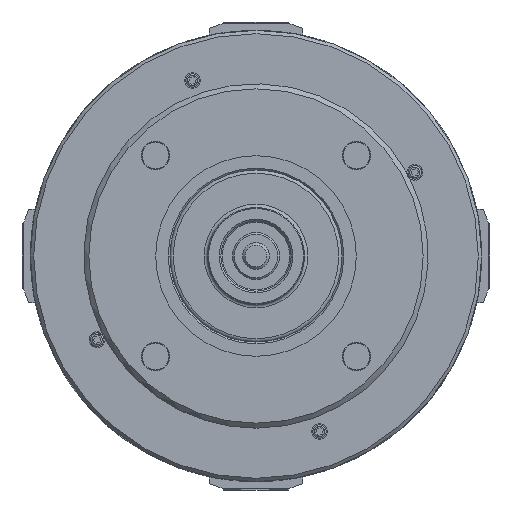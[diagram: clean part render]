
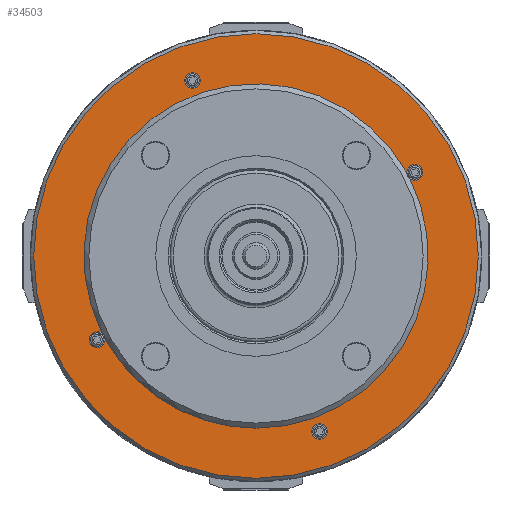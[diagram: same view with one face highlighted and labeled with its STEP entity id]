
A CAD part, left-side view. The second image highlights one B-rep face of the part: STEP entity #34503.
In plain terms, the highlighted planar face has unit normal (-1, 0, 0).
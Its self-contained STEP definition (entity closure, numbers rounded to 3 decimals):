
#558 = ORIENTED_EDGE ( 'NONE', *, *, #34661, .T. ) ;
#3327 = CIRCLE ( 'NONE', #37014, 103. ) ;
#4438 = EDGE_CURVE ( 'NONE', #41925, #5770, #20112, .T. ) ;
#4638 = AXIS2_PLACEMENT_3D ( 'NONE', #20581, #60546, #67040 ) ;
#5472 = DIRECTION ( 'NONE',  ( 0., 0., -1. ) ) ;
#5770 = VERTEX_POINT ( 'NONE', #52773 ) ;
#6200 = DIRECTION ( 'NONE',  ( 1., 0., 0. ) ) ;
#7828 = CIRCLE ( 'NONE', #49162, 4.75 ) ;
#8017 = AXIS2_PLACEMENT_3D ( 'NONE', #73903, #6200, #5472 ) ;
#9072 = EDGE_LOOP ( 'NONE', ( #43304, #32061, #558, #24000 ) ) ;
#9312 = VERTEX_POINT ( 'NONE', #54674 ) ;
#9942 = CARTESIAN_POINT ( 'NONE',  ( -107., 0., 0. ) ) ;
#11888 = EDGE_LOOP ( 'NONE', ( #72001 ) ) ;
#12027 = VERTEX_POINT ( 'NONE', #39881 ) ;
#12380 = DIRECTION ( 'NONE',  ( 0., 0., -1. ) ) ;
#15821 = AXIS2_PLACEMENT_3D ( 'NONE', #9942, #50141, #49904 ) ;
#16566 = EDGE_CURVE ( 'NONE', #22977, #22977, #72476, .T. ) ;
#17760 = CARTESIAN_POINT ( 'NONE',  ( -107., -90.266, 49.609 ) ) ;
#20112 = CIRCLE ( 'NONE', #60216, 4.75 ) ;
#20581 = CARTESIAN_POINT ( 'NONE',  ( -107., -103., 0. ) ) ;
#20679 = AXIS2_PLACEMENT_3D ( 'NONE', #24389, #41613, #12380 ) ;
#21156 = EDGE_CURVE ( 'NONE', #9312, #41925, #3327, .T. ) ;
#21480 = FACE_OUTER_BOUND ( 'NONE', #34175, .T. ) ;
#22977 = VERTEX_POINT ( 'NONE', #68373 ) ;
#23727 = DIRECTION ( 'NONE',  ( 1., 0., 0. ) ) ;
#24000 = ORIENTED_EDGE ( 'NONE', *, *, #73539, .T. ) ;
#24168 = CARTESIAN_POINT ( 'NONE',  ( -107., 38., 100.25 ) ) ;
#24389 = CARTESIAN_POINT ( 'NONE',  ( -107., 38., 105. ) ) ;
#27363 = CIRCLE ( 'NONE', #73831, 4.75 ) ;
#28892 = CARTESIAN_POINT ( 'NONE',  ( -107., -95., 50. ) ) ;
#29557 = DIRECTION ( 'NONE',  ( 1., 0., 0. ) ) ;
#32061 = ORIENTED_EDGE ( 'NONE', *, *, #4438, .T. ) ;
#34175 = EDGE_LOOP ( 'NONE', ( #34358 ) ) ;
#34358 = ORIENTED_EDGE ( 'NONE', *, *, #16566, .F. ) ;
#34503 = ADVANCED_FACE ( 'NONE', ( #69693, #59902, #21480, #40276 ), #49796, .F. ) ;
#34661 = EDGE_CURVE ( 'NONE', #5770, #12027, #44663, .T. ) ;
#37014 = AXIS2_PLACEMENT_3D ( 'NONE', #41006, #29557, #58482 ) ;
#37241 = VERTEX_POINT ( 'NONE', #47095 ) ;
#37777 = CARTESIAN_POINT ( 'NONE',  ( -107., 95., -50. ) ) ;
#39856 = DIRECTION ( 'NONE',  ( 0., 0., -1. ) ) ;
#39881 = CARTESIAN_POINT ( 'NONE',  ( -107., 90.266, -49.609 ) ) ;
#39917 = EDGE_LOOP ( 'NONE', ( #65929 ) ) ;
#40276 = FACE_BOUND ( 'NONE', #9072, .T. ) ;
#41006 = CARTESIAN_POINT ( 'NONE',  ( -107., 0., 0. ) ) ;
#41613 = DIRECTION ( 'NONE',  ( 1., 0., 0. ) ) ;
#41925 = VERTEX_POINT ( 'NONE', #17760 ) ;
#43304 = ORIENTED_EDGE ( 'NONE', *, *, #21156, .T. ) ;
#43972 = DIRECTION ( 'NONE',  ( 0., 0., -1. ) ) ;
#44663 = CIRCLE ( 'NONE', #8017, 103. ) ;
#45942 = DIRECTION ( 'NONE',  ( 0., 0., -1. ) ) ;
#47095 = CARTESIAN_POINT ( 'NONE',  ( -107., -38., -109.75 ) ) ;
#48709 = EDGE_CURVE ( 'NONE', #54218, #54218, #68609, .T. ) ;
#49162 = AXIS2_PLACEMENT_3D ( 'NONE', #37777, #71980, #43972 ) ;
#49731 = EDGE_CURVE ( 'NONE', #37241, #37241, #27363, .T. ) ;
#49796 = PLANE ( 'NONE',  #4638 ) ;
#49904 = DIRECTION ( 'NONE',  ( 0., 0., -1. ) ) ;
#50141 = DIRECTION ( 'NONE',  ( 1., 0., 0. ) ) ;
#52773 = CARTESIAN_POINT ( 'NONE',  ( -107., -91.997, 46.319 ) ) ;
#54218 = VERTEX_POINT ( 'NONE', #24168 ) ;
#54674 = CARTESIAN_POINT ( 'NONE',  ( -107., 91.997, -46.319 ) ) ;
#57445 = CARTESIAN_POINT ( 'NONE',  ( -107., -38., -105. ) ) ;
#58482 = DIRECTION ( 'NONE',  ( 0., 0., -1. ) ) ;
#59902 = FACE_BOUND ( 'NONE', #11888, .T. ) ;
#60216 = AXIS2_PLACEMENT_3D ( 'NONE', #28892, #68797, #39856 ) ;
#60546 = DIRECTION ( 'NONE',  ( 1., 0., 0. ) ) ;
#65929 = ORIENTED_EDGE ( 'NONE', *, *, #48709, .T. ) ;
#67040 = DIRECTION ( 'NONE',  ( 0., 0., -1. ) ) ;
#68373 = CARTESIAN_POINT ( 'NONE',  ( -107., 0., -133. ) ) ;
#68609 = CIRCLE ( 'NONE', #20679, 4.75 ) ;
#68797 = DIRECTION ( 'NONE',  ( 1., 0., 0. ) ) ;
#69693 = FACE_BOUND ( 'NONE', #39917, .T. ) ;
#71980 = DIRECTION ( 'NONE',  ( 1., 0., 0. ) ) ;
#72001 = ORIENTED_EDGE ( 'NONE', *, *, #49731, .T. ) ;
#72476 = CIRCLE ( 'NONE', #15821, 133. ) ;
#73539 = EDGE_CURVE ( 'NONE', #12027, #9312, #7828, .T. ) ;
#73831 = AXIS2_PLACEMENT_3D ( 'NONE', #57445, #23727, #45942 ) ;
#73903 = CARTESIAN_POINT ( 'NONE',  ( -107., 0., 0. ) ) ;
